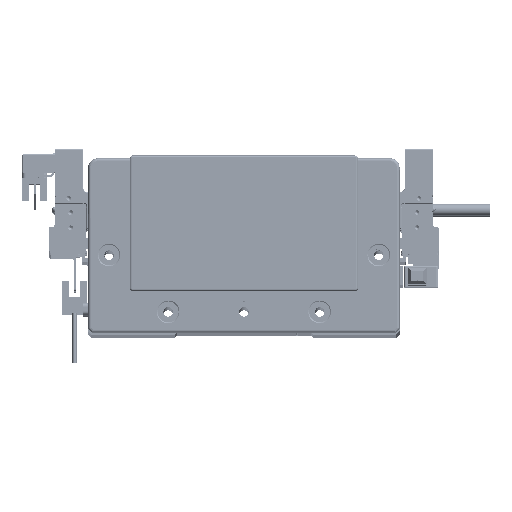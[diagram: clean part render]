
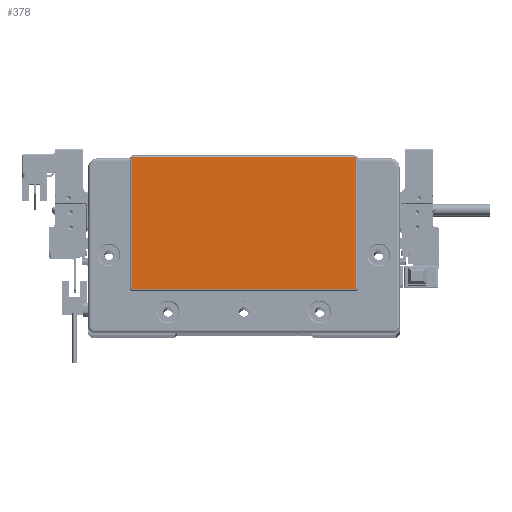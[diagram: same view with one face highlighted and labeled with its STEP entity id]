
A CAD part, top view. The second image highlights one B-rep face of the part: STEP entity #378.
In plain terms, the highlighted planar face has unit normal (0, 0, 1) as drawn and (0, 0, -1) by its records, which use the part's own axes.
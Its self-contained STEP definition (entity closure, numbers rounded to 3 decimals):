
#378 = ADVANCED_FACE ( 'NONE', ( #4325 ), #21254, .T. ) ;
#2317 = AXIS2_PLACEMENT_3D ( 'NONE', #33271, #26578, #7108 ) ;
#4325 = FACE_OUTER_BOUND ( 'NONE', #103772, .T. ) ;
#5697 = EDGE_CURVE ( 'NONE', #33861, #104640, #43021, .T. ) ;
#7108 = DIRECTION ( 'NONE',  ( -1., 0., 0. ) ) ;
#8814 = VERTEX_POINT ( 'NONE', #61509 ) ;
#10608 = CIRCLE ( 'NONE', #76763, 0.5 ) ;
#11573 = DIRECTION ( 'NONE',  ( -1., 0., 0. ) ) ;
#11911 = DIRECTION ( 'NONE',  ( 0., 0., -1. ) ) ;
#12513 = DIRECTION ( 'NONE',  ( 0., 0., -1. ) ) ;
#14699 = EDGE_CURVE ( 'NONE', #59953, #103591, #49304, .T. ) ;
#16229 = CARTESIAN_POINT ( 'NONE',  ( 58.75, 45.8, -2. ) ) ;
#16631 = CARTESIAN_POINT ( 'NONE',  ( 58.75, -23.8, -2. ) ) ;
#19439 = VERTEX_POINT ( 'NONE', #85998 ) ;
#21254 = PLANE ( 'NONE',  #76227 ) ;
#21576 = ORIENTED_EDGE ( 'NONE', *, *, #81098, .T. ) ;
#21979 = EDGE_CURVE ( 'NONE', #8814, #33861, #63135, .T. ) ;
#26567 = AXIS2_PLACEMENT_3D ( 'NONE', #85753, #36159, #11573 ) ;
#26578 = DIRECTION ( 'NONE',  ( 0., 0., -1. ) ) ;
#26776 = CARTESIAN_POINT ( 'NONE',  ( 59.25, -23.3, -2. ) ) ;
#27143 = EDGE_CURVE ( 'NONE', #64757, #59953, #67100, .T. ) ;
#29705 = CIRCLE ( 'NONE', #80183, 0.5 ) ;
#30503 = DIRECTION ( 'NONE',  ( -1., 0., 0. ) ) ;
#31923 = DIRECTION ( 'NONE',  ( -1., 0., 0. ) ) ;
#33271 = CARTESIAN_POINT ( 'NONE',  ( 58.75, -23.3, -2. ) ) ;
#33861 = VERTEX_POINT ( 'NONE', #51321 ) ;
#34408 = DIRECTION ( 'NONE',  ( 0., -1., 0. ) ) ;
#34723 = ORIENTED_EDGE ( 'NONE', *, *, #21979, .T. ) ;
#36159 = DIRECTION ( 'NONE',  ( 0., 0., -1. ) ) ;
#37600 = CARTESIAN_POINT ( 'NONE',  ( 0., 0., -2. ) ) ;
#38088 = DIRECTION ( 'NONE',  ( -1., 0., 0. ) ) ;
#40993 = VECTOR ( 'NONE', #34408, 1000. ) ;
#41400 = VERTEX_POINT ( 'NONE', #105216 ) ;
#43021 = LINE ( 'NONE', #85544, #48980 ) ;
#43267 = VECTOR ( 'NONE', #99600, 1000. ) ;
#44848 = ORIENTED_EDGE ( 'NONE', *, *, #14699, .T. ) ;
#45613 = CARTESIAN_POINT ( 'NONE',  ( 59.25, 45.3, -2. ) ) ;
#48980 = VECTOR ( 'NONE', #52291, 1000. ) ;
#49304 = CIRCLE ( 'NONE', #2317, 0.5 ) ;
#50408 = CARTESIAN_POINT ( 'NONE',  ( -58.75, -23.8, -2. ) ) ;
#50564 = ORIENTED_EDGE ( 'NONE', *, *, #50898, .T. ) ;
#50898 = EDGE_CURVE ( 'NONE', #19439, #64757, #10608, .T. ) ;
#51321 = CARTESIAN_POINT ( 'NONE',  ( -59.25, -23.3, -2. ) ) ;
#52291 = DIRECTION ( 'NONE',  ( 0., 1., 0. ) ) ;
#53813 = EDGE_CURVE ( 'NONE', #103591, #8814, #89680, .T. ) ;
#59953 = VERTEX_POINT ( 'NONE', #70181 ) ;
#60401 = ORIENTED_EDGE ( 'NONE', *, *, #53813, .T. ) ;
#61509 = CARTESIAN_POINT ( 'NONE',  ( -58.75, -23.8, -2. ) ) ;
#63135 = CIRCLE ( 'NONE', #26567, 0.5 ) ;
#64757 = VERTEX_POINT ( 'NONE', #45613 ) ;
#67100 = LINE ( 'NONE', #26776, #40993 ) ;
#70181 = CARTESIAN_POINT ( 'NONE',  ( 59.25, -23.3, -2. ) ) ;
#70444 = ORIENTED_EDGE ( 'NONE', *, *, #27143, .T. ) ;
#70821 = DIRECTION ( 'NONE',  ( 0., 0., -1. ) ) ;
#71909 = CARTESIAN_POINT ( 'NONE',  ( 58.75, 45.3, -2. ) ) ;
#76227 = AXIS2_PLACEMENT_3D ( 'NONE', #37600, #70821, #104067 ) ;
#76763 = AXIS2_PLACEMENT_3D ( 'NONE', #71909, #12513, #30503 ) ;
#80183 = AXIS2_PLACEMENT_3D ( 'NONE', #87153, #11911, #38088 ) ;
#80725 = VECTOR ( 'NONE', #31923, 1000. ) ;
#81098 = EDGE_CURVE ( 'NONE', #104640, #41400, #29705, .T. ) ;
#85544 = CARTESIAN_POINT ( 'NONE',  ( -59.25, 45.3, -2. ) ) ;
#85753 = CARTESIAN_POINT ( 'NONE',  ( -58.75, -23.3, -2. ) ) ;
#85998 = CARTESIAN_POINT ( 'NONE',  ( 58.75, 45.8, -2. ) ) ;
#87153 = CARTESIAN_POINT ( 'NONE',  ( -58.75, 45.3, -2. ) ) ;
#89680 = LINE ( 'NONE', #50408, #80725 ) ;
#92019 = EDGE_CURVE ( 'NONE', #41400, #19439, #92517, .T. ) ;
#92517 = LINE ( 'NONE', #16229, #43267 ) ;
#92681 = CARTESIAN_POINT ( 'NONE',  ( -59.25, 45.3, -2. ) ) ;
#99600 = DIRECTION ( 'NONE',  ( 1., 0., 0. ) ) ;
#100124 = ORIENTED_EDGE ( 'NONE', *, *, #92019, .T. ) ;
#103591 = VERTEX_POINT ( 'NONE', #16631 ) ;
#103772 = EDGE_LOOP ( 'NONE', ( #70444, #44848, #60401, #34723, #104385, #21576, #100124, #50564 ) ) ;
#104067 = DIRECTION ( 'NONE',  ( -1., 0., 0. ) ) ;
#104385 = ORIENTED_EDGE ( 'NONE', *, *, #5697, .T. ) ;
#104640 = VERTEX_POINT ( 'NONE', #92681 ) ;
#105216 = CARTESIAN_POINT ( 'NONE',  ( -58.75, 45.8, -2. ) ) ;
